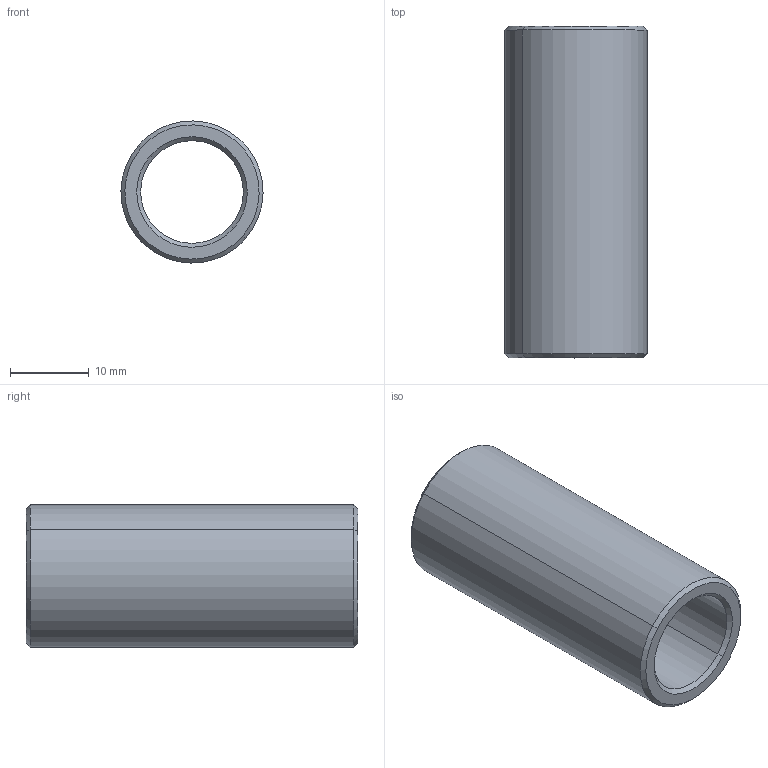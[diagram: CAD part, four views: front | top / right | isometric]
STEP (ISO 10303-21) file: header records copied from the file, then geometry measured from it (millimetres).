
FILE_DESCRIPTION(('CATIA V5 STEP Exchange'),'2;1');
FILE_NAME('C:\Users\nobody\Desktop\SHT0017102_A.stp','2024-02-21T07:10:45+00:00',('none'),('none'),'CATIA Version 5 Release 20 GA (IN-10)','CATIA V5 STEP AP203 Edition 2','none');
FILE_SCHEMA(('AP203_CONFIGURATION_CONTROLLED_3D_DESIGN_OF_MECHANICAL_PARTS_AND_ASSEMBLIES_MIM_LF { 1 0 10303 403 2 1 2}'));
Length unit declared in the file: millimetre
Products named in the file (1): SHT0017102
Bounding box: 18 x 42 x 18 mm (x, y, z)
Volume: 5088.6 mm3; surface area: 4276.8 mm2
Topology: 1 solids, 1 shells, 14 faces, 28 edges, 16 vertices
Faces by surface type: cone 8, cylinder 4, plane 2
Entity records: 368 total; most frequent: CARTESIAN_POINT 57, ORIENTED_EDGE 56, DIRECTION 52, AXIS2_PLACEMENT_3D 29, EDGE_CURVE 28, CIRCLE 16, VERTEX_POINT 16, EDGE_LOOP 16
